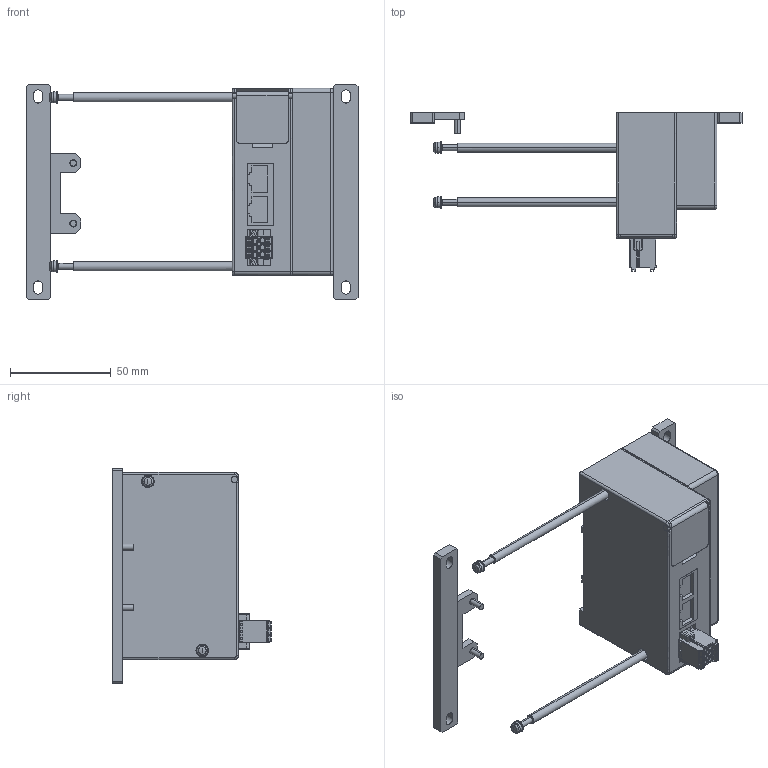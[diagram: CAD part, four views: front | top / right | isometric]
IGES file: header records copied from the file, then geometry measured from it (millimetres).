
Start section: ------------------------------------------------------------------------
Bounding box: 165 x 78.8 x 107 mm (x, y, z)
Volume: 271358.2 mm3; surface area: 43712.9 mm2
Topology: 3 solids, 3 shells, 825 faces, 2127 edges, 1359 vertices
Faces by surface type: bspline 825
